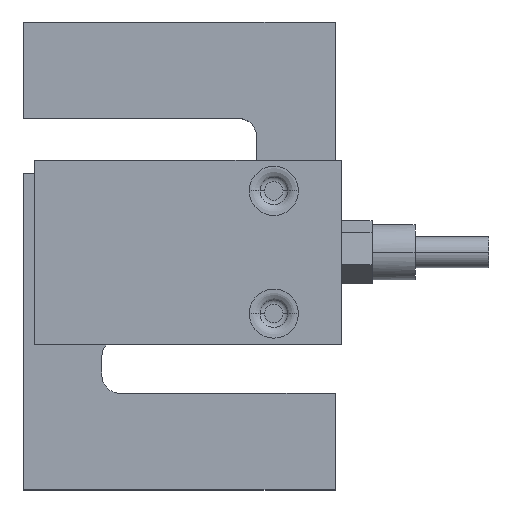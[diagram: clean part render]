
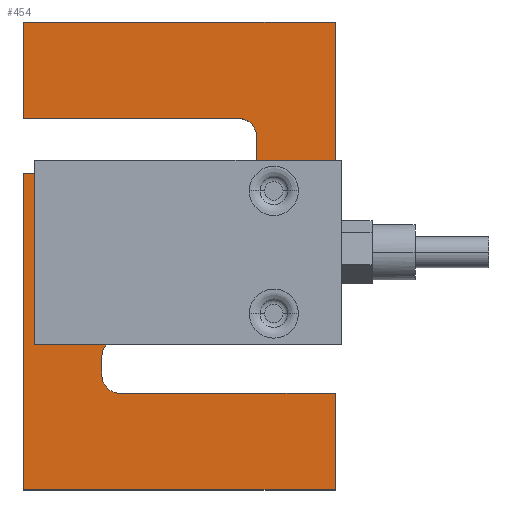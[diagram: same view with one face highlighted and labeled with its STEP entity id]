
A CAD part, top view. The second image highlights one B-rep face of the part: STEP entity #454.
In plain terms, the highlighted planar face has unit normal (0, 0, 1).
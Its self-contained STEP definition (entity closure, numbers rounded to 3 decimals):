
#36 = CARTESIAN_POINT ( 'NONE',  ( 37.837, 1.563, 29.145 ) ) ;
#121 = LINE ( 'NONE', #3745, #2199 ) ;
#168 = LINE ( 'NONE', #1564, #3313 ) ;
#181 = AXIS2_PLACEMENT_3D ( 'NONE', #422, #2674, #2036 ) ;
#212 = VECTOR ( 'NONE', #439, 1000. ) ;
#218 = ORIENTED_EDGE ( 'NONE', *, *, #2631, .T. ) ;
#231 = AXIS2_PLACEMENT_3D ( 'NONE', #3826, #3493, #3858 ) ;
#233 = ORIENTED_EDGE ( 'NONE', *, *, #2600, .T. ) ;
#246 = CARTESIAN_POINT ( 'NONE',  ( 2.837, 4.563, 29.145 ) ) ;
#313 = CARTESIAN_POINT ( 'NONE',  ( 22.037, 40.363, 29.145 ) ) ;
#352 = AXIS2_PLACEMENT_3D ( 'NONE', #3878, #2692, #2787 ) ;
#353 = DIRECTION ( 'NONE',  ( 0., 0., -1. ) ) ;
#369 = AXIS2_PLACEMENT_3D ( 'NONE', #246, #1119, #3084 ) ;
#389 = CIRCLE ( 'NONE', #369, 3. ) ;
#394 = ORIENTED_EDGE ( 'NONE', *, *, #2863, .T. ) ;
#402 = VERTEX_POINT ( 'NONE', #2881 ) ;
#411 = VERTEX_POINT ( 'NONE', #2594 ) ;
#422 = CARTESIAN_POINT ( 'NONE',  ( 22.037, 43.363, 29.145 ) ) ;
#439 = DIRECTION ( 'NONE',  ( 1., 0., 0. ) ) ;
#450 = EDGE_CURVE ( 'NONE', #4090, #2061, #2893, .T. ) ;
#454 = ADVANCED_FACE ( 'NONE', ( #3104 ), #1041, .F. ) ;
#512 = LINE ( 'NONE', #2897, #4034 ) ;
#612 = LINE ( 'NONE', #1667, #3711 ) ;
#704 = CARTESIAN_POINT ( 'NONE',  ( -12.963, 46.363, 29.145 ) ) ;
#740 = LINE ( 'NONE', #1567, #4068 ) ;
#807 = CIRCLE ( 'NONE', #231, 3. ) ;
#826 = VERTEX_POINT ( 'NONE', #2875 ) ;
#828 = ORIENTED_EDGE ( 'NONE', *, *, #2376, .T. ) ;
#861 = CARTESIAN_POINT ( 'NONE',  ( -12.963, 37.363, 29.145 ) ) ;
#870 = CARTESIAN_POINT ( 'NONE',  ( -0.163, 7.563, 29.145 ) ) ;
#874 = EDGE_CURVE ( 'NONE', #3706, #4059, #168, .T. ) ;
#893 = VERTEX_POINT ( 'NONE', #1862 ) ;
#908 = CARTESIAN_POINT ( 'NONE',  ( -0.163, 4.563, 29.145 ) ) ;
#952 = DIRECTION ( 'NONE',  ( -1., 0., 0. ) ) ;
#979 = CARTESIAN_POINT ( 'NONE',  ( 22.037, 37.363, 29.145 ) ) ;
#990 = LINE ( 'NONE', #3986, #2659 ) ;
#1041 = PLANE ( 'NONE',  #181 ) ;
#1119 = DIRECTION ( 'NONE',  ( 0., 0., -1. ) ) ;
#1217 = AXIS2_PLACEMENT_3D ( 'NONE', #313, #353, #1562 ) ;
#1272 = CARTESIAN_POINT ( 'NONE',  ( 2.837, 1.563, 29.145 ) ) ;
#1411 = VERTEX_POINT ( 'NONE', #3534 ) ;
#1446 = LINE ( 'NONE', #2380, #1649 ) ;
#1542 = CIRCLE ( 'NONE', #1217, 3. ) ;
#1561 = EDGE_CURVE ( 'NONE', #2844, #3706, #990, .T. ) ;
#1562 = DIRECTION ( 'NONE',  ( -1., 0., 0. ) ) ;
#1564 = CARTESIAN_POINT ( 'NONE',  ( 37.837, -14.137, 29.145 ) ) ;
#1567 = CARTESIAN_POINT ( 'NONE',  ( -12.963, 62.063, 29.145 ) ) ;
#1649 = VECTOR ( 'NONE', #3050, 1000. ) ;
#1667 = CARTESIAN_POINT ( 'NONE',  ( -0.163, 7.563, 29.145 ) ) ;
#1746 = EDGE_CURVE ( 'NONE', #4149, #2844, #4118, .T. ) ;
#1842 = VERTEX_POINT ( 'NONE', #908 ) ;
#1844 = EDGE_CURVE ( 'NONE', #826, #1411, #1542, .T. ) ;
#1862 = CARTESIAN_POINT ( 'NONE',  ( 37.837, 62.063, 29.145 ) ) ;
#1902 = ORIENTED_EDGE ( 'NONE', *, *, #3738, .T. ) ;
#1930 = VERTEX_POINT ( 'NONE', #1272 ) ;
#1937 = VECTOR ( 'NONE', #3896, 1000. ) ;
#1980 = ORIENTED_EDGE ( 'NONE', *, *, #2778, .T. ) ;
#1982 = ORIENTED_EDGE ( 'NONE', *, *, #1844, .T. ) ;
#1997 = EDGE_CURVE ( 'NONE', #893, #2966, #3925, .T. ) ;
#2006 = EDGE_CURVE ( 'NONE', #2061, #3270, #3804, .T. ) ;
#2036 = DIRECTION ( 'NONE',  ( -1., 0., 0. ) ) ;
#2061 = VERTEX_POINT ( 'NONE', #3539 ) ;
#2079 = CARTESIAN_POINT ( 'NONE',  ( -12.963, 46.363, 29.145 ) ) ;
#2101 = EDGE_CURVE ( 'NONE', #4059, #1930, #2798, .T. ) ;
#2175 = DIRECTION ( 'NONE',  ( 0., -1., 0. ) ) ;
#2199 = VECTOR ( 'NONE', #2585, 1000. ) ;
#2238 = EDGE_LOOP ( 'NONE', ( #3241, #828, #2873, #2461, #1980, #1982, #1902, #2572, #3222, #3887, #3604, #3876, #233, #394, #2569, #218 ) ) ;
#2279 = DIRECTION ( 'NONE',  ( 0., 1., 0. ) ) ;
#2284 = CARTESIAN_POINT ( 'NONE',  ( 37.837, 62.063, 29.145 ) ) ;
#2343 = DIRECTION ( 'NONE',  ( 1., 0., 0. ) ) ;
#2376 = EDGE_CURVE ( 'NONE', #2966, #4090, #740, .T. ) ;
#2380 = CARTESIAN_POINT ( 'NONE',  ( 2.837, 10.563, 29.145 ) ) ;
#2461 = ORIENTED_EDGE ( 'NONE', *, *, #2006, .T. ) ;
#2490 = DIRECTION ( 'NONE',  ( 0., -1., 0. ) ) ;
#2543 = CARTESIAN_POINT ( 'NONE',  ( -12.963, 62.063, 29.145 ) ) ;
#2569 = ORIENTED_EDGE ( 'NONE', *, *, #2934, .T. ) ;
#2572 = ORIENTED_EDGE ( 'NONE', *, *, #1746, .T. ) ;
#2585 = DIRECTION ( 'NONE',  ( 0., -1., 0. ) ) ;
#2594 = CARTESIAN_POINT ( 'NONE',  ( 37.837, 10.563, 29.145 ) ) ;
#2600 = EDGE_CURVE ( 'NONE', #1842, #3120, #612, .T. ) ;
#2631 = EDGE_CURVE ( 'NONE', #411, #893, #512, .T. ) ;
#2659 = VECTOR ( 'NONE', #2343, 1000. ) ;
#2674 = DIRECTION ( 'NONE',  ( 0., 0., -1. ) ) ;
#2692 = DIRECTION ( 'NONE',  ( 0., 0., -1. ) ) ;
#2778 = EDGE_CURVE ( 'NONE', #3270, #826, #121, .T. ) ;
#2787 = DIRECTION ( 'NONE',  ( -1., 0., 0. ) ) ;
#2798 = LINE ( 'NONE', #36, #1937 ) ;
#2844 = VERTEX_POINT ( 'NONE', #3227 ) ;
#2863 = EDGE_CURVE ( 'NONE', #3120, #402, #807, .T. ) ;
#2873 = ORIENTED_EDGE ( 'NONE', *, *, #450, .T. ) ;
#2875 = CARTESIAN_POINT ( 'NONE',  ( 25.037, 40.363, 29.145 ) ) ;
#2881 = CARTESIAN_POINT ( 'NONE',  ( 2.837, 10.563, 29.145 ) ) ;
#2893 = LINE ( 'NONE', #704, #212 ) ;
#2897 = CARTESIAN_POINT ( 'NONE',  ( 37.837, 10.563, 29.145 ) ) ;
#2934 = EDGE_CURVE ( 'NONE', #402, #411, #1446, .T. ) ;
#2966 = VERTEX_POINT ( 'NONE', #2543 ) ;
#3050 = DIRECTION ( 'NONE',  ( 1., 0., 0. ) ) ;
#3054 = VECTOR ( 'NONE', #3290, 1000. ) ;
#3084 = DIRECTION ( 'NONE',  ( -1., 0., 0. ) ) ;
#3104 = FACE_OUTER_BOUND ( 'NONE', #2238, .T. ) ;
#3120 = VERTEX_POINT ( 'NONE', #870 ) ;
#3222 = ORIENTED_EDGE ( 'NONE', *, *, #1561, .T. ) ;
#3227 = CARTESIAN_POINT ( 'NONE',  ( -12.963, -14.137, 29.145 ) ) ;
#3241 = ORIENTED_EDGE ( 'NONE', *, *, #1997, .T. ) ;
#3259 = VECTOR ( 'NONE', #2490, 1000. ) ;
#3270 = VERTEX_POINT ( 'NONE', #4125 ) ;
#3290 = DIRECTION ( 'NONE',  ( -1., 0., 0. ) ) ;
#3313 = VECTOR ( 'NONE', #3806, 1000. ) ;
#3493 = DIRECTION ( 'NONE',  ( 0., 0., -1. ) ) ;
#3519 = CARTESIAN_POINT ( 'NONE',  ( 37.837, -14.137, 29.145 ) ) ;
#3534 = CARTESIAN_POINT ( 'NONE',  ( 22.037, 37.363, 29.145 ) ) ;
#3539 = CARTESIAN_POINT ( 'NONE',  ( 22.037, 46.363, 29.145 ) ) ;
#3559 = EDGE_CURVE ( 'NONE', #1930, #1842, #389, .T. ) ;
#3604 = ORIENTED_EDGE ( 'NONE', *, *, #2101, .T. ) ;
#3697 = CARTESIAN_POINT ( 'NONE',  ( -12.963, 37.363, 29.145 ) ) ;
#3706 = VERTEX_POINT ( 'NONE', #3519 ) ;
#3711 = VECTOR ( 'NONE', #3930, 1000. ) ;
#3738 = EDGE_CURVE ( 'NONE', #1411, #4149, #4144, .T. ) ;
#3745 = CARTESIAN_POINT ( 'NONE',  ( 25.037, 43.363, 29.145 ) ) ;
#3804 = CIRCLE ( 'NONE', #352, 3. ) ;
#3806 = DIRECTION ( 'NONE',  ( 0., 1., 0. ) ) ;
#3826 = CARTESIAN_POINT ( 'NONE',  ( 2.837, 7.563, 29.145 ) ) ;
#3834 = VECTOR ( 'NONE', #952, 1000. ) ;
#3858 = DIRECTION ( 'NONE',  ( -1., 0., 0. ) ) ;
#3876 = ORIENTED_EDGE ( 'NONE', *, *, #3559, .T. ) ;
#3878 = CARTESIAN_POINT ( 'NONE',  ( 22.037, 43.363, 29.145 ) ) ;
#3887 = ORIENTED_EDGE ( 'NONE', *, *, #874, .T. ) ;
#3896 = DIRECTION ( 'NONE',  ( -1., 0., 0. ) ) ;
#3925 = LINE ( 'NONE', #2284, #3054 ) ;
#3930 = DIRECTION ( 'NONE',  ( 0., 1., 0. ) ) ;
#3986 = CARTESIAN_POINT ( 'NONE',  ( -12.963, -14.137, 29.145 ) ) ;
#4032 = CARTESIAN_POINT ( 'NONE',  ( 37.837, 1.563, 29.145 ) ) ;
#4034 = VECTOR ( 'NONE', #2279, 1000. ) ;
#4059 = VERTEX_POINT ( 'NONE', #4032 ) ;
#4068 = VECTOR ( 'NONE', #2175, 1000. ) ;
#4090 = VERTEX_POINT ( 'NONE', #2079 ) ;
#4118 = LINE ( 'NONE', #861, #3259 ) ;
#4125 = CARTESIAN_POINT ( 'NONE',  ( 25.037, 43.363, 29.145 ) ) ;
#4144 = LINE ( 'NONE', #979, #3834 ) ;
#4149 = VERTEX_POINT ( 'NONE', #3697 ) ;
